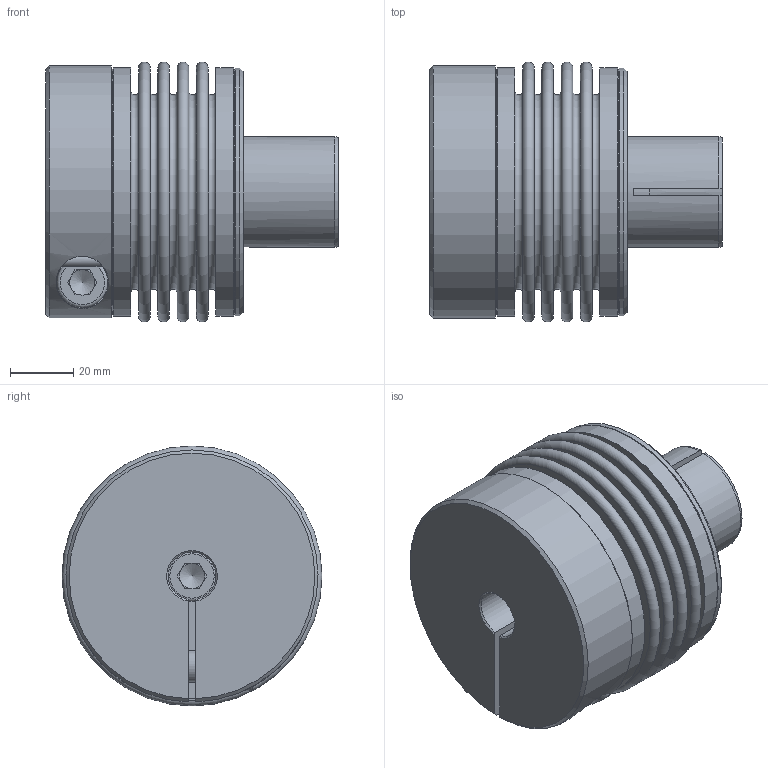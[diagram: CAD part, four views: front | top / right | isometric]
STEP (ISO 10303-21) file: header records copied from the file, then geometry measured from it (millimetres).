
FILE_DESCRIPTION(/* description */ ('Unknown'),/* implementation_level */ '2;1');
FILE_NAME(/* name */ 'KPS 170',/* time_stamp */ '2021-02-22T12:07:31+01:00',/* author */ ('Unknown'),/* organization */ ('Unknown'),/* preprocessor_version */ 'ST-DEVELOPER v16.7',/* originating_system */ 'DEX',/* authorisation */ $);
FILE_SCHEMA (('AUTOMOTIVE_DESIGN {1 0 10303 214 3 1 1}'));
Length unit declared in the file: millimetre
Products named in the file (1): KPS 170
Bounding box: 92.2 x 82 x 82 mm (x, y, z)
Volume: 200813.3 mm3; surface area: 87655.4 mm2
Topology: 1 solids, 1 shells, 128 faces, 269 edges, 174 vertices
Faces by surface type: plane 70, torus 23, cylinder 22, cone 13
Full cylindrical faces by diameter (mm): 8.5 x2, 10 x2, 10.4 x2, 16 x2, 16.5 x1, 35 x1, 77.3 x1, 78 x1, 78.5 x2
Entity records: 3214 total; most frequent: CARTESIAN_POINT 607, DIRECTION 573, ORIENTED_EDGE 418, AXIS2_PLACEMENT_3D 242, EDGE_CURVE 209, FACE_BOUND 208, EDGE_LOOP 205, VERTEX_POINT 161
